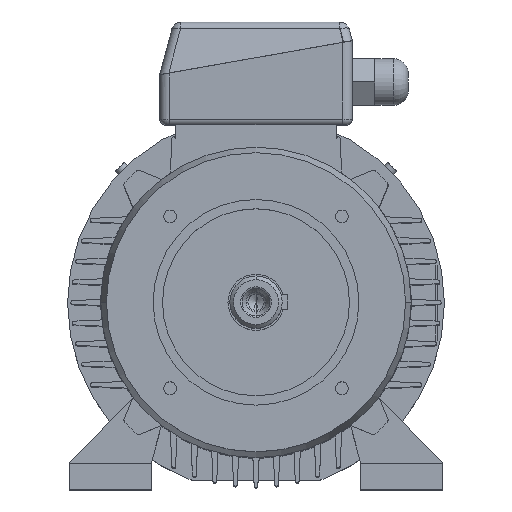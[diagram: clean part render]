
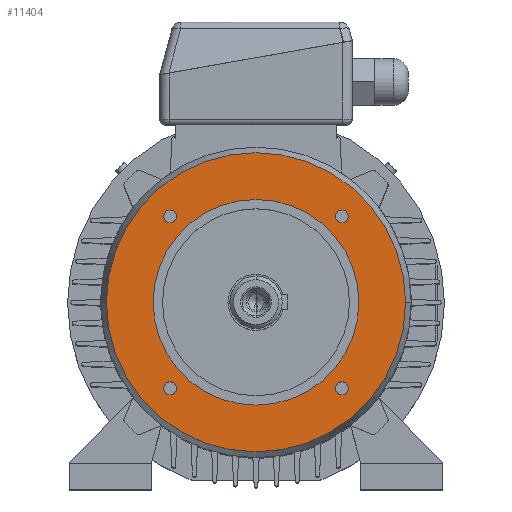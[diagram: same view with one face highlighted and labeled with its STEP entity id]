
A CAD part, top view. The second image highlights one B-rep face of the part: STEP entity #11404.
In plain terms, the highlighted planar face has unit normal (0, 0, 1).
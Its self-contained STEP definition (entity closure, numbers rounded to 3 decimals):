
#422 = VERTEX_POINT ( 'NONE', #1678 ) ;
#478 = EDGE_CURVE ( 'NONE', #743, #422, #1796, .T. ) ;
#578 = EDGE_CURVE ( 'NONE', #9388, #8141, #2001, .T. ) ;
#603 = VERTEX_POINT ( 'NONE', #2065 ) ;
#661 = EDGE_CURVE ( 'NONE', #13236, #603, #2199, .T. ) ;
#743 = VERTEX_POINT ( 'NONE', #2361 ) ;
#1678 = CARTESIAN_POINT ( 'NONE',  ( -42.562, -45.962, 45. ) ) ;
#1796 = CIRCLE ( 'NONE', #1797, 3.4 ) ;
#1797 = AXIS2_PLACEMENT_3D ( 'NONE', #1798, #1799, #1800 ) ;
#1798 = CARTESIAN_POINT ( 'NONE',  ( -45.962, -45.962, 45. ) ) ;
#1799 = DIRECTION ( 'NONE',  ( 0., 0., 1. ) ) ;
#1800 = DIRECTION ( 'NONE',  ( 1., 0., 0. ) ) ;
#2001 = CIRCLE ( 'NONE', #2002, 55. ) ;
#2002 = AXIS2_PLACEMENT_3D ( 'NONE', #2003, #2007, #2008 ) ;
#2003 = CARTESIAN_POINT ( 'NONE',  ( 0., 0., 45. ) ) ;
#2007 = DIRECTION ( 'NONE',  ( 0., 0., -1. ) ) ;
#2008 = DIRECTION ( 'NONE',  ( 0., 1., 0. ) ) ;
#2065 = CARTESIAN_POINT ( 'NONE',  ( -42.562, 45.962, 45. ) ) ;
#2199 = CIRCLE ( 'NONE', #2200, 3.4 ) ;
#2200 = AXIS2_PLACEMENT_3D ( 'NONE', #2201, #2202, #2203 ) ;
#2201 = CARTESIAN_POINT ( 'NONE',  ( -45.962, 45.962, 45. ) ) ;
#2202 = DIRECTION ( 'NONE',  ( 0., 0., 1. ) ) ;
#2203 = DIRECTION ( 'NONE',  ( 1., 0., 0. ) ) ;
#2361 = CARTESIAN_POINT ( 'NONE',  ( -49.362, -45.962, 45. ) ) ;
#4692 = EDGE_LOOP ( 'NONE', ( #13118, #13030 ) ) ;
#4917 = ORIENTED_EDGE ( 'NONE', *, *, #578, .T. ) ;
#4985 = CARTESIAN_POINT ( 'NONE',  ( 0., -80., 45. ) ) ;
#5068 = CARTESIAN_POINT ( 'NONE',  ( 0., 80., 45. ) ) ;
#5751 = VERTEX_POINT ( 'NONE', #4985 ) ;
#5994 = VERTEX_POINT ( 'NONE', #5068 ) ;
#6553 = CARTESIAN_POINT ( 'NONE',  ( 0., 55., 45. ) ) ;
#6623 = CIRCLE ( 'NONE', #6624, 3.4 ) ;
#6624 = AXIS2_PLACEMENT_3D ( 'NONE', #6625, #6626, #6627 ) ;
#6625 = CARTESIAN_POINT ( 'NONE',  ( -45.962, -45.962, 45. ) ) ;
#6626 = DIRECTION ( 'NONE',  ( 0., 0., 1. ) ) ;
#6627 = DIRECTION ( 'NONE',  ( 1., 0., 0. ) ) ;
#6687 = CIRCLE ( 'NONE', #6688, 55. ) ;
#6688 = AXIS2_PLACEMENT_3D ( 'NONE', #6693, #6694, #6695 ) ;
#6693 = CARTESIAN_POINT ( 'NONE',  ( 0., 0., 45. ) ) ;
#6694 = DIRECTION ( 'NONE',  ( 0., 0., -1. ) ) ;
#6695 = DIRECTION ( 'NONE',  ( 0., 1., 0. ) ) ;
#6753 = CIRCLE ( 'NONE', #6754, 3.4 ) ;
#6754 = AXIS2_PLACEMENT_3D ( 'NONE', #6758, #6759, #6760 ) ;
#6758 = CARTESIAN_POINT ( 'NONE',  ( 45.962, 45.962, 45. ) ) ;
#6759 = DIRECTION ( 'NONE',  ( 0., 0., 1. ) ) ;
#6760 = DIRECTION ( 'NONE',  ( 1., 0., 0. ) ) ;
#7136 = CARTESIAN_POINT ( 'NONE',  ( 0., -55., 45. ) ) ;
#7592 = CIRCLE ( 'NONE', #7593, 3.4 ) ;
#7593 = AXIS2_PLACEMENT_3D ( 'NONE', #7594, #7595, #7596 ) ;
#7594 = CARTESIAN_POINT ( 'NONE',  ( -45.962, 45.962, 45. ) ) ;
#7595 = DIRECTION ( 'NONE',  ( 0., 0., 1. ) ) ;
#7596 = DIRECTION ( 'NONE',  ( 1., 0., 0. ) ) ;
#7698 = CIRCLE ( 'NONE', #7699, 3.4 ) ;
#7699 = AXIS2_PLACEMENT_3D ( 'NONE', #7700, #7701, #7702 ) ;
#7700 = CARTESIAN_POINT ( 'NONE',  ( 45.962, -45.962, 45. ) ) ;
#7701 = DIRECTION ( 'NONE',  ( 0., 0., 1. ) ) ;
#7702 = DIRECTION ( 'NONE',  ( 1., 0., 0. ) ) ;
#7719 = EDGE_LOOP ( 'NONE', ( #9845, #4917 ) ) ;
#7741 = ORIENTED_EDGE ( 'NONE', *, *, #478, .F. ) ;
#7977 = ORIENTED_EDGE ( 'NONE', *, *, #12601, .F. ) ;
#8141 = VERTEX_POINT ( 'NONE', #6553 ) ;
#8155 = FACE_BOUND ( 'NONE', #11179, .T. ) ;
#8156 = FACE_BOUND ( 'NONE', #9306, .T. ) ;
#8157 = FACE_BOUND ( 'NONE', #11564, .T. ) ;
#8158 = FACE_BOUND ( 'NONE', #9562, .T. ) ;
#8159 = FACE_BOUND ( 'NONE', #7719, .T. ) ;
#8160 = FACE_OUTER_BOUND ( 'NONE', #4692, .T. ) ;
#8169 = PLANE ( 'NONE',  #8170 ) ;
#8170 = AXIS2_PLACEMENT_3D ( 'NONE', #8171, #8172, #8173 ) ;
#8171 = CARTESIAN_POINT ( 'NONE',  ( 0., 80., 45. ) ) ;
#8172 = DIRECTION ( 'NONE',  ( 0., 0., 1. ) ) ;
#8173 = DIRECTION ( 'NONE',  ( 0., -1., 0. ) ) ;
#8309 = EDGE_CURVE ( 'NONE', #422, #743, #6623, .T. ) ;
#8355 = CIRCLE ( 'NONE', #8356, 80. ) ;
#8356 = AXIS2_PLACEMENT_3D ( 'NONE', #8357, #8358, #8359 ) ;
#8357 = CARTESIAN_POINT ( 'NONE',  ( 0., 0., 45. ) ) ;
#8358 = DIRECTION ( 'NONE',  ( 0., 0., -1. ) ) ;
#8359 = DIRECTION ( 'NONE',  ( 0., 1., 0. ) ) ;
#8391 = EDGE_CURVE ( 'NONE', #8141, #9388, #6687, .T. ) ;
#8559 = EDGE_CURVE ( 'NONE', #12537, #12823, #6753, .T. ) ;
#8724 = ORIENTED_EDGE ( 'NONE', *, *, #8309, .F. ) ;
#8978 = ORIENTED_EDGE ( 'NONE', *, *, #8559, .F. ) ;
#9306 = EDGE_LOOP ( 'NONE', ( #8724, #7741 ) ) ;
#9388 = VERTEX_POINT ( 'NONE', #7136 ) ;
#9562 = EDGE_LOOP ( 'NONE', ( #8978, #7977 ) ) ;
#9584 = ORIENTED_EDGE ( 'NONE', *, *, #661, .F. ) ;
#9747 = CARTESIAN_POINT ( 'NONE',  ( 49.362, 45.962, 45. ) ) ;
#9844 = ORIENTED_EDGE ( 'NONE', *, *, #12681, .F. ) ;
#9845 = ORIENTED_EDGE ( 'NONE', *, *, #8391, .T. ) ;
#9876 = CIRCLE ( 'NONE', #9877, 3.4 ) ;
#9877 = AXIS2_PLACEMENT_3D ( 'NONE', #9878, #9879, #9880 ) ;
#9878 = CARTESIAN_POINT ( 'NONE',  ( 45.962, 45.962, 45. ) ) ;
#9879 = DIRECTION ( 'NONE',  ( 0., 0., 1. ) ) ;
#9880 = DIRECTION ( 'NONE',  ( 1., 0., 0. ) ) ;
#9975 = CARTESIAN_POINT ( 'NONE',  ( 49.362, -45.962, 45. ) ) ;
#10045 = CIRCLE ( 'NONE', #10046, 80. ) ;
#10046 = AXIS2_PLACEMENT_3D ( 'NONE', #10047, #10048, #10049 ) ;
#10047 = CARTESIAN_POINT ( 'NONE',  ( 0., 0., 45. ) ) ;
#10048 = DIRECTION ( 'NONE',  ( 0., 0., -1. ) ) ;
#10049 = DIRECTION ( 'NONE',  ( 0., 1., 0. ) ) ;
#10077 = CIRCLE ( 'NONE', #10078, 3.4 ) ;
#10078 = AXIS2_PLACEMENT_3D ( 'NONE', #10079, #10080, #10081 ) ;
#10079 = CARTESIAN_POINT ( 'NONE',  ( 45.962, -45.962, 45. ) ) ;
#10080 = DIRECTION ( 'NONE',  ( 0., 0., 1. ) ) ;
#10081 = DIRECTION ( 'NONE',  ( 1., 0., 0. ) ) ;
#10185 = EDGE_CURVE ( 'NONE', #603, #13236, #7592, .T. ) ;
#10351 = CARTESIAN_POINT ( 'NONE',  ( 42.562, 45.962, 45. ) ) ;
#10429 = EDGE_CURVE ( 'NONE', #12631, #12916, #7698, .T. ) ;
#10558 = CARTESIAN_POINT ( 'NONE',  ( 42.562, -45.962, 45. ) ) ;
#10599 = ORIENTED_EDGE ( 'NONE', *, *, #10185, .F. ) ;
#10849 = ORIENTED_EDGE ( 'NONE', *, *, #10429, .F. ) ;
#11179 = EDGE_LOOP ( 'NONE', ( #10599, #9584 ) ) ;
#11404 = ADVANCED_FACE ( 'NONE', ( #8155, #8156, #8157, #8158, #8159, #8160 ), #8169, .T. ) ;
#11564 = EDGE_LOOP ( 'NONE', ( #10849, #9844 ) ) ;
#11718 = CARTESIAN_POINT ( 'NONE',  ( -49.362, 45.962, 45. ) ) ;
#11812 = EDGE_CURVE ( 'NONE', #5994, #5751, #8355, .T. ) ;
#12537 = VERTEX_POINT ( 'NONE', #9747 ) ;
#12601 = EDGE_CURVE ( 'NONE', #12823, #12537, #9876, .T. ) ;
#12631 = VERTEX_POINT ( 'NONE', #9975 ) ;
#12663 = EDGE_CURVE ( 'NONE', #5751, #5994, #10045, .T. ) ;
#12681 = EDGE_CURVE ( 'NONE', #12916, #12631, #10077, .T. ) ;
#12823 = VERTEX_POINT ( 'NONE', #10351 ) ;
#12916 = VERTEX_POINT ( 'NONE', #10558 ) ;
#13030 = ORIENTED_EDGE ( 'NONE', *, *, #12663, .F. ) ;
#13118 = ORIENTED_EDGE ( 'NONE', *, *, #11812, .F. ) ;
#13236 = VERTEX_POINT ( 'NONE', #11718 ) ;
